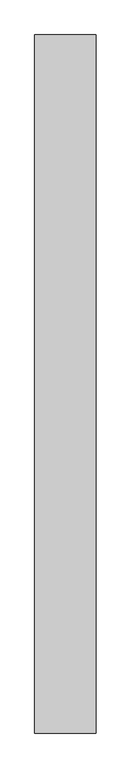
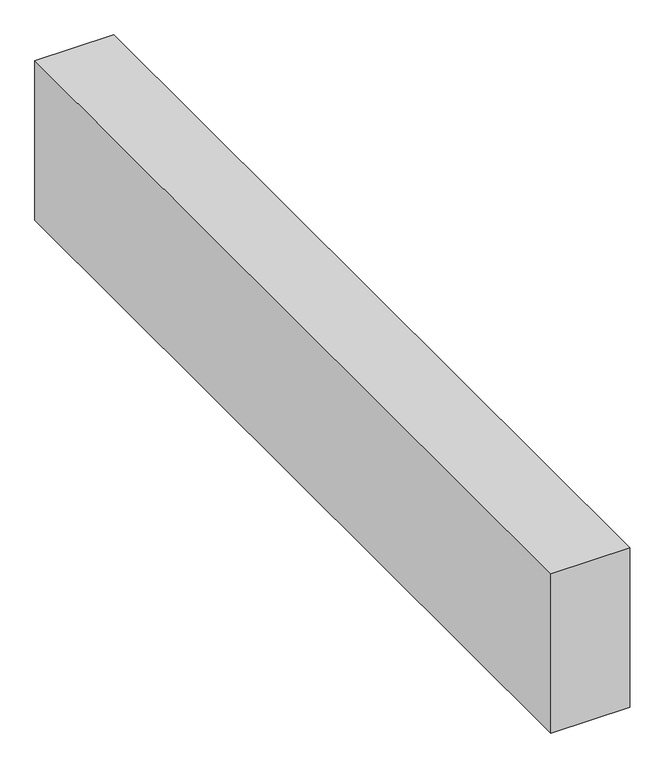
"""IFC4 building model written with IfcOpenShell, lengths in millimetres: proxy geometry."""

from ifc_helpers import new_model, si_unit, frame, origin, place, context, project, spatial, polyline, outline, extrude, source, transform, mapped, element, save


def structural_framing_bc256635(model_context):
    return source(origin(), model_context, "Body", "SweptSolid", [
        extrude(outline(polyline([(70.0, -795.0), (-70.0, -795.0), (-70.0, 795.0), (70.0, 795.0), (70.0, -795.0)])), frame((0.0, 0.0, -300.0), z_axis=(0.0, 0.0, 1.0), x_axis=(1.0, 0.0, 0.0)), (0.0, 0.0, 1.0), 300.0),
    ])


if __name__ == "__main__":
    model = new_model("IFC4")
    model_context = context("Model", 3, world=origin())
    ifc_project = project(units=[si_unit("LENGTHUNIT", "METRE", prefix="MILLI")], contexts=[model_context])
    site = spatial("IfcSite", under=ifc_project)
    building = spatial("IfcBuilding", under=site)
    placement = place(None, origin())
    structural_framing_shape = structural_framing_bc256635(model_context)
    element("IfcBuildingElementProxy", 1, Name="Structural Framing", at=placement, inside=building, context=model_context, shape_type="MappedRepresentation", body=[
        mapped(structural_framing_shape, transform((0.0, 0.0, 0.0), x_axis=(1.0, 0.0, 0.0), y_axis=(0.0, 1.0, 0.0), z_axis=(0.0, 0.0, 1.0))),
    ])
    save(model, "model.ifc")
